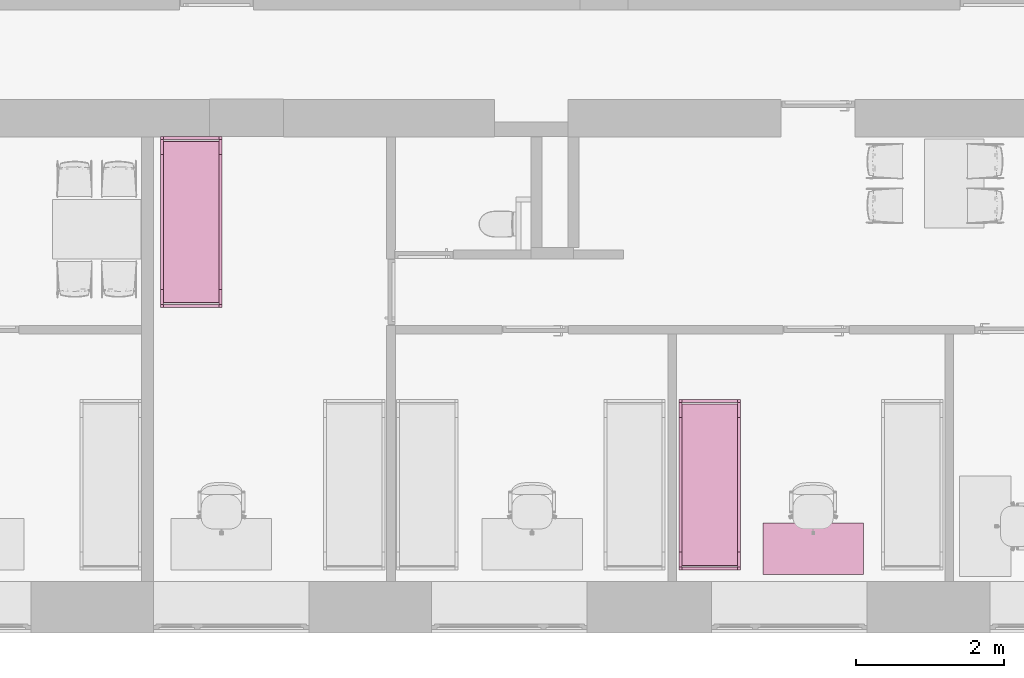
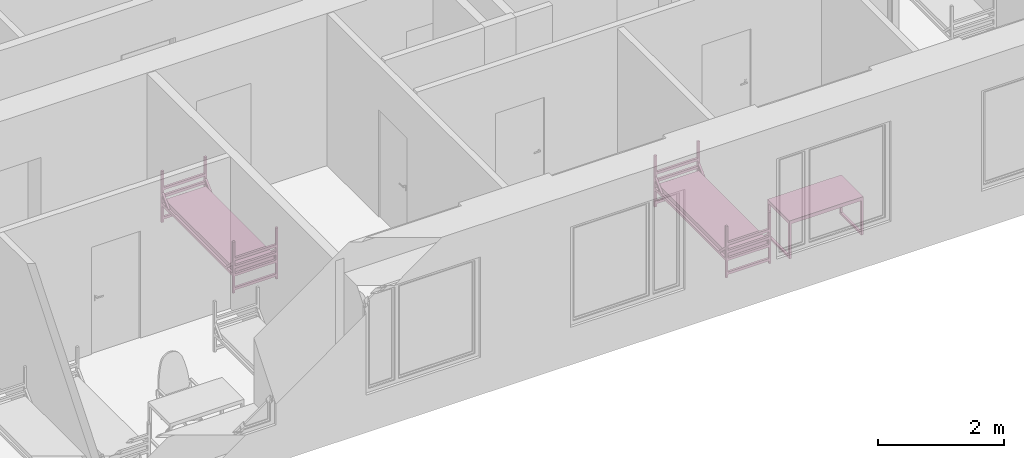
# One storey, part 33 of 48: 3 furnishings.
"""IFC2X3 building model written with IfcOpenShell, lengths in millimetres."""

from ifc_helpers import new_model, entity, si_unit, converted_unit, derived_unit, direction, frame, frame_2d, origin, place, context, subcontext, project, spatial, polyline, circle_curve, parameter, trimmed, segment, composite_curve, rectangle, outline, extrude, faceted_brep, source, transform, mapped, material, material_list, type_object, type_shapes, element, save


model = new_model("IFC2X3")

# Units and contexts
model_context = context("Model", 3, precision=0.01, world=origin(), true_north=direction((6.12303176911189e-17, 1.0)))
body_context = subcontext(model_context, "Body", "Model", "MODEL_VIEW")
ifc_project = project(units=[si_unit("LENGTHUNIT", "METRE", prefix="MILLI"), si_unit("AREAUNIT", "SQUARE_METRE"), si_unit("VOLUMEUNIT", "CUBIC_METRE"), converted_unit("PLANEANGLEUNIT", "DEGREE", entity("IfcRatioMeasure", 0.0174532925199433), si_unit("PLANEANGLEUNIT", "RADIAN"), dimensions=[0, 0, 0, 0, 0, 0, 0]), si_unit("MASSUNIT", "GRAM", prefix="KILO"), derived_unit("MASSDENSITYUNIT", [(si_unit("MASSUNIT", "GRAM", prefix="KILO"), 1), (si_unit("LENGTHUNIT", "METRE"), -3)]), si_unit("TIMEUNIT", "SECOND"), si_unit("FREQUENCYUNIT", "HERTZ"), si_unit("THERMODYNAMICTEMPERATUREUNIT", "DEGREE_CELSIUS"), derived_unit("THERMALTRANSMITTANCEUNIT", [(si_unit("MASSUNIT", "GRAM", prefix="KILO"), 1), (si_unit("THERMODYNAMICTEMPERATUREUNIT", "KELVIN"), -1), (si_unit("TIMEUNIT", "SECOND"), -3)]), derived_unit("VOLUMETRICFLOWRATEUNIT", [(si_unit("LENGTHUNIT", "METRE"), 3), (si_unit("TIMEUNIT", "SECOND"), -1)]), si_unit("ELECTRICCURRENTUNIT", "AMPERE"), si_unit("ELECTRICVOLTAGEUNIT", "VOLT"), si_unit("POWERUNIT", "WATT"), si_unit("FORCEUNIT", "NEWTON", prefix="KILO"), si_unit("ILLUMINANCEUNIT", "LUX"), si_unit("LUMINOUSFLUXUNIT", "LUMEN"), si_unit("LUMINOUSINTENSITYUNIT", "CANDELA"), derived_unit("USERDEFINED", [(si_unit("MASSUNIT", "GRAM", prefix="KILO"), -1), (si_unit("LENGTHUNIT", "METRE"), -2), (si_unit("TIMEUNIT", "SECOND"), 3), (si_unit("LUMINOUSFLUXUNIT", "LUMEN"), 1)]), derived_unit("LINEARVELOCITYUNIT", [(si_unit("LENGTHUNIT", "METRE"), 1), (si_unit("TIMEUNIT", "SECOND"), -1)]), si_unit("PRESSUREUNIT", "PASCAL"), derived_unit("USERDEFINED", [(si_unit("LENGTHUNIT", "METRE"), -2), (si_unit("MASSUNIT", "GRAM", prefix="KILO"), 1), (si_unit("TIMEUNIT", "SECOND"), -2)]), derived_unit("LINEARFORCEUNIT", [(si_unit("MASSUNIT", "GRAM", prefix="KILO"), 1), (si_unit("LENGTHUNIT", "METRE"), 1), (si_unit("TIMEUNIT", "SECOND"), -2), (si_unit("LENGTHUNIT", "METRE"), -1)]), derived_unit("PLANARFORCEUNIT", [(si_unit("MASSUNIT", "GRAM", prefix="KILO"), 1), (si_unit("LENGTHUNIT", "METRE"), 1), (si_unit("TIMEUNIT", "SECOND"), -2), (si_unit("LENGTHUNIT", "METRE"), -2)])], contexts=[model_context])

# Site, building, storey, space
site_placement = place(None, origin())
site = spatial("IfcSite", under=ifc_project, at=site_placement, Name="Default", CompositionType="ELEMENT")
building_placement = place(site_placement, origin())
building = spatial("IfcBuilding", under=site, at=building_placement, Name="SMA ARH", CompositionType="ELEMENT")
storey_placement = place(building_placement, frame((0.0, 0.0, 6600.0)))
storey = spatial("IfcBuildingStorey", under=building, at=storey_placement, Name="3 Korrus", CompositionType="ELEMENT", Elevation=6599.99999999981)
space_1_placement = place(storey_placement, origin())
space_1 = spatial("IfcSpace", under=storey, at=space_1_placement, Name="3-7", CompositionType="ELEMENT", InteriorOrExteriorSpace="INTERNAL")

# Furnishing
ifc_material_1 = material(Name="Madrats")
furniture_type_1 = type_object("IfcFurnitureType", Name="Kasarmu voodi ühekordne 2308x830:Kasarmu voodi ühekordne 2308x830", material=ifc_material_1)
shared_shape_1 = source(origin(), body_context, "Body", "SweptSolid", [
    extrude(rectangle(XDim=39.9999999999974, YDim=750.000000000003, at=frame_2d((-1.35003119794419e-13, -2.8421709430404e-14), x_axis=(1.0, 0.0))), frame((1.68638457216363, -1226.7969571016, 55.0), z_axis=(0.0, 0.0, 1.0), x_axis=(0.0, -1.0, 0.0)), (0.0, 0.0, 1.0), 49.9999999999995),
    extrude(rectangle(XDim=39.9999999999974, YDim=750.000000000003, at=frame_2d((-1.35003119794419e-13, -2.8421709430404e-14), x_axis=(1.0, 0.0))), frame((1.68638457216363, -1226.7969571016, 325.0), z_axis=(0.0, 0.0, 1.0), x_axis=(0.0, -1.0, 0.0)), (0.0, 0.0, 1.0), 49.9999999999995),
    extrude(rectangle(XDim=39.9999999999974, YDim=750.000000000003, at=frame_2d((-1.35003119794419e-13, -2.8421709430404e-14), x_axis=(1.0, 0.0))), frame((1.68638457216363, -1226.7969571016, 475.0), z_axis=(0.0, 0.0, 1.0), x_axis=(0.0, -1.0, 0.0)), (0.0, 0.0, 1.0), 49.9999999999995),
    extrude(rectangle(XDim=39.9999999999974, YDim=750.000000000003, at=frame_2d((-1.35003119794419e-13, -2.8421709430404e-14), x_axis=(1.0, 0.0))), frame((1.68638457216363, -1226.7969571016, 625.0), z_axis=(0.0, 0.0, 1.0), x_axis=(0.0, -1.0, 0.0)), (0.0, 0.0, 1.0), 50.0000000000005),
    extrude(rectangle(XDim=39.9999999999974, YDim=750.000000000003, at=frame_2d((1.35003119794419e-13, -2.8421709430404e-14), x_axis=(1.0, 0.0))), frame((1.68638457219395, 1041.2030428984, 55.0), z_axis=(0.0, 0.0, 1.0), x_axis=(0.0, -1.0, 0.0)), (0.0, 0.0, 1.0), 50.0000000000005),
    extrude(rectangle(XDim=39.9999999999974, YDim=750.000000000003, at=frame_2d((1.35003119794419e-13, -2.8421709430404e-14), x_axis=(1.0, 0.0))), frame((1.68638457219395, 1041.2030428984, 325.0), z_axis=(0.0, 0.0, 1.0), x_axis=(0.0, -1.0, 0.0)), (0.0, 0.0, 1.0), 50.0000000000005),
    extrude(rectangle(XDim=39.9999999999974, YDim=750.000000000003, at=frame_2d((1.35003119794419e-13, -2.8421709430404e-14), x_axis=(1.0, 0.0))), frame((1.68638457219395, 1041.2030428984, 475.0), z_axis=(0.0, 0.0, 1.0), x_axis=(0.0, -1.0, 0.0)), (0.0, 0.0, 1.0), 50.0000000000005),
    extrude(rectangle(XDim=39.9999999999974, YDim=750.000000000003, at=frame_2d((1.35003119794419e-13, -2.8421709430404e-14), x_axis=(1.0, 0.0))), frame((1.68638457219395, 1041.2030428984, 625.0), z_axis=(0.0, 0.0, 1.0), x_axis=(0.0, -1.0, 0.0)), (0.0, 0.0, 1.0), 49.9999999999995),
    extrude(outline(composite_curve([segment(trimmed(circle_curve(frame_2d((1085.0, -40.0), x_axis=(1.0, 0.0)), 10.0), [parameter(270.0)], [parameter(0.0)], True, "PARAMETER"), True, "CONTINUOUS"), segment(polyline([(1095.0, -40.0), (1095.0, 40.0)]), True, "CONTINUOUS"), segment(trimmed(circle_curve(frame_2d((1085.0, 40.0), x_axis=(1.0, 0.0)), 10.0), [parameter(0.0)], [parameter(90.0000000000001)], True, "PARAMETER"), True, "CONTINUOUS"), segment(polyline([(1085.0, 50.0), (-1085.0, 50.0)]), True, "CONTINUOUS"), segment(trimmed(circle_curve(frame_2d((-1085.0, 40.0), x_axis=(1.0, 0.0)), 10.0), [parameter(90.0000000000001)], [parameter(180.0)], True, "PARAMETER"), True, "CONTINUOUS"), segment(polyline([(-1095.0, 40.0), (-1095.0, -40.0)]), True, "CONTINUOUS"), segment(trimmed(circle_curve(frame_2d((-1085.0, -40.0), x_axis=(1.0, 0.0)), 10.0), [parameter(180.0)], [parameter(270.0)], True, "PARAMETER"), True, "CONTINUOUS"), segment(polyline([(-1085.0, -50.0), (1085.0, -50.0)]), True, "CONTINUOUS")], self_intersect=False)), frame((-373.313615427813, -92.7969571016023, 405.0), z_axis=(1.0, 0.0, 0.0), x_axis=(0.0, -1.0, 0.0)), (0.0, 0.0, 1.0), 750.000000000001),
    extrude(outline(polyline([(-1114.0, -100.0), (1114.0, -100.0), (1114.0, -50.0), (961.59199141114, -50.0), (1114.0, 100.0), (1114.0, 150.0), (910.789321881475, -50.0), (-910.789321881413, -50.0), (-1114.0, 150.0), (-1114.0, 100.0), (-961.591991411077, -50.0), (-1114.0, -50.0), (-1114.0, -100.0)])), frame((-413.313615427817, -92.7969571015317, 430.0), z_axis=(1.0, 0.0, 0.0), x_axis=(0.0, 1.0, 0.0)), (0.0, 0.0, 1.0), 39.9999999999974),
    extrude(outline(polyline([(-1114.0, -100.0), (1114.0, -100.0), (1114.0, -50.0), (961.591991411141, -50.0), (1114.0, 100.0), (1114.0, 150.0), (910.789321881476, -50.0), (-910.789321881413, -50.0), (-1114.0, 150.0), (-1114.0, 100.0), (-961.591991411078, -50.0), (-1114.0, -50.0), (-1114.0, -100.0)])), frame((376.686384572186, -92.796957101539, 430.0), z_axis=(1.0, 0.0, 0.0), x_axis=(0.0, 1.0, 0.0)), (0.0, 0.0, 1.0), 39.9999999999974),
    extrude(rectangle(XDim=39.9999999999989, YDim=39.9999999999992, at=frame_2d((-6.75015598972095e-14, 0.0), x_axis=(1.0, 0.0))), frame((396.686384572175, -1226.79695710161, 0.0), z_axis=(0.0, 0.0, 1.0), x_axis=(0.0, 1.0, 0.0)), (0.0, 0.0, 1.0), 995.0),
    extrude(rectangle(XDim=39.9999999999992, YDim=39.9999999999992, at=frame_2d((-1.35003119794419e-13, 0.0), x_axis=(1.0, 0.0))), frame((396.686384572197, 1041.20304289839, 0.0), z_axis=(0.0, 0.0, 1.0), x_axis=(0.0, 1.0, 0.0)), (0.0, 0.0, 1.0), 995.0),
    extrude(rectangle(XDim=40.0000000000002, YDim=39.9999999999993, at=frame_2d((-1.35003119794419e-13, 0.0), x_axis=(1.0, 0.0))), frame((-393.313615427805, 1041.2030428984, 0.0), z_axis=(0.0, 0.0, 1.0), x_axis=(0.0, 1.0, 0.0)), (0.0, 0.0, 1.0), 995.0),
    extrude(rectangle(XDim=39.9999999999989, YDim=39.9999999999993, at=frame_2d((-6.75015598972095e-14, 0.0), x_axis=(1.0, 0.0))), frame((-393.313615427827, -1226.7969571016, 0.0), z_axis=(0.0, 0.0, 1.0), x_axis=(0.0, 1.0, 0.0)), (0.0, 0.0, 1.0), 995.0),
])
type_shapes(furniture_type_1, [shared_shape_1])
furnishing_1_placement = place(space_1_placement, frame((23839.3136154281, 1396.79695710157, 0.0)))
element("IfcFurnishingElement", 1, at=furnishing_1_placement, inside=space_1, type_object=furniture_type_1, material=ifc_material_1, Name="Kasarmu voodi ühekordne 2308x830:Kasarmu voodi ühekordne 2308x830", ObjectType="Kasarmu voodi ühekordne 2308x830:Kasarmu voodi ühekordne 2308x830", context=body_context, shape_type="MappedRepresentation", body=[
    mapped(shared_shape_1, transform((0.0, 0.0, 0.0), scale=1.0)),
])

# Space
space_2_placement = place(storey_placement, origin())
space_2 = spatial("IfcSpace", under=storey, at=space_2_placement, Name="3-9", CompositionType="ELEMENT", InteriorOrExteriorSpace="INTERNAL")

# Furnishings
furnishing_2_placement = place(space_2_placement, frame((16831.1863845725, 4763.20304289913, 0.0), z_axis=(0.0, 0.0, 1.0), x_axis=(-1.0, 0.0, 0.0)))
element("IfcFurnishingElement", 2, at=furnishing_2_placement, inside=space_2, type_object=furniture_type_1, material=ifc_material_1, Name="Kasarmu voodi ühekordne 2308x830:Kasarmu voodi ühekordne 2308x830", ObjectType="Kasarmu voodi ühekordne 2308x830:Kasarmu voodi ühekordne 2308x830", context=body_context, shape_type="MappedRepresentation", body=[
    mapped(shared_shape_1, transform((0.0, 0.0, 0.0), scale=1.0)),
])
ifc_material_2 = material(Name="<Unnamed>")
ifc_material_list = material_list([ifc_material_2, ifc_material_2])
furniture_type_2 = type_object("IfcFurnitureType", Name="kirjutuslaud 1360x700mm:kirjutuslaud 1360x700mm", material=ifc_material_list)
shared_shape_2 = source(origin(), body_context, "Body", "Brep", [
    faceted_brep([(680.0, -350.0, 720.0), (680.0, 350.0, 720.0), (680.0, 350.0, 750.0), (680.0, -350.0, 750.0), (-680.0, -350.0, 720.0), (-680.0, -350.0, 750.0), (-680.0, 350.0, 750.0), (-680.0, 350.0, 720.0)], [[[0, 1, 2, 3]], [[4, 5, 6, 7]], [[1, 0, 4, 7]], [[2, 1, 7, 6]], [[3, 2, 6, 5]], [[0, 3, 5, 4]]]),
    faceted_brep([(-640.0, -310.0, 680.0), (-640.0, 310.0, 680.0), (-640.0, 310.0, 720.0), (-640.0, -310.0, 720.0), (-680.0, -350.0, 720.0), (-680.0, 350.0, 720.0), (-680.0, 350.0, 10.0), (-680.0, -350.0, 10.0), (-680.0, 310.0, 680.0), (-680.0, -310.0, 680.0), (-680.0, -310.0, 50.0), (-680.0, 310.0, 50.0), (-640.0, -350.0, 10.0), (-640.0, -350.0, 680.0), (640.0, -350.0, 680.0), (640.0, -350.0, 10.0), (680.0, -350.0, 10.0), (680.0, -350.0, 720.0), (-640.0, 350.0, 10.0), (680.0, 350.0, 720.0), (680.0, 350.0, 10.0), (640.0, 350.0, 10.0), (640.0, 350.0, 680.0), (-640.0, 350.0, 680.0), (640.0, 310.0, 720.0), (640.0, -310.0, 720.0), (-640.0, 310.0, 50.0), (-640.0, -310.0, 50.0), (640.0, -310.0, 680.0), (640.0, 310.0, 680.0), (680.0, 310.0, 680.0), (680.0, 310.0, 50.0), (680.0, -310.0, 50.0), (680.0, -310.0, 680.0), (640.0, -310.0, 50.0), (640.0, 310.0, 50.0)], [[[0, 1, 2, 3]], [[4, 5, 6, 7], [8, 9, 10, 11]], [[4, 7, 12, 13, 14, 15, 16, 17]], [[18, 12, 7, 6]], [[6, 5, 19, 20, 21, 22, 23, 18]], [[19, 5, 4, 17], [2, 24, 25, 3]], [[26, 1, 8, 11]], [[27, 26, 11, 10]], [[0, 27, 10, 9]], [[1, 0, 9, 8]], [[14, 13, 0, 28]], [[24, 2, 1, 29]], [[3, 25, 28, 0]], [[17, 16, 20, 19], [30, 31, 32, 33]], [[21, 15, 14, 28, 34, 35, 29, 22]], [[20, 16, 15, 21]], [[31, 30, 29, 35]], [[32, 31, 35, 34]], [[33, 32, 34, 28]], [[30, 33, 28, 29]], [[29, 28, 25, 24]], [[29, 1, 23, 22]], [[12, 18, 23, 1, 26, 27, 0, 13]]]),
    faceted_brep([(-663.729456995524, -270.466136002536, 0.0), (-659.847171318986, -269.955023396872, 0.0), (-655.964885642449, -270.466136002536, 0.0), (-652.347171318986, -271.964642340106, 0.0), (-649.240569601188, -274.348421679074, 0.0), (-646.85679026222, -277.455023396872, 0.0), (-645.35828392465, -281.072737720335, 0.0), (-644.847171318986, -284.955023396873, 0.0), (-645.35828392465, -288.83730907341, 0.0), (-646.85679026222, -292.455023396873, 0.0), (-649.240569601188, -295.561625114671, 0.0), (-652.347171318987, -297.945404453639, 0.0), (-655.964885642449, -299.443910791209, 0.0), (-659.847171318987, -299.955023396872, 0.0), (-663.729456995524, -299.443910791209, 0.0), (-667.347171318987, -297.945404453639, 0.0), (-670.453773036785, -295.561625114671, 0.0), (-672.837552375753, -292.455023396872, 0.0), (-674.336058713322, -288.83730907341, 0.0), (-674.847171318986, -284.955023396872, 0.0), (-674.336058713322, -281.072737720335, 0.0), (-672.837552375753, -277.455023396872, 0.0), (-670.453773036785, -274.348421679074, 0.0), (-667.347171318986, -271.964642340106, 0.0), (-655.964885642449, -299.443910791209, 10.0), (-652.347171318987, -297.945404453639, 10.0), (-649.240569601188, -295.561625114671, 10.0), (-646.85679026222, -292.455023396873, 10.0), (-645.35828392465, -288.83730907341, 10.0), (-644.847171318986, -284.955023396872, 10.0), (-645.35828392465, -281.072737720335, 10.0), (-646.85679026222, -277.455023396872, 10.0), (-649.240569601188, -274.348421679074, 10.0), (-652.347171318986, -271.964642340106, 10.0), (-655.964885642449, -270.466136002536, 10.0), (-659.847171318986, -269.955023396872, 10.0), (-663.729456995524, -270.466136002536, 10.0), (-667.347171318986, -271.964642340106, 10.0), (-670.453773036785, -274.348421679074, 10.0), (-672.837552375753, -277.455023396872, 10.0), (-674.336058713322, -281.072737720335, 10.0), (-674.847171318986, -284.955023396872, 10.0), (-674.336058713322, -288.83730907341, 10.0), (-672.837552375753, -292.455023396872, 10.0), (-670.453773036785, -295.561625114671, 10.0), (-667.347171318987, -297.945404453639, 10.0), (-663.729456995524, -299.443910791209, 10.0), (-659.847171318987, -299.955023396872, 10.0)], [[[0, 1, 2, 3, 4, 5, 6, 7, 8, 9, 10, 11, 12, 13, 14, 15, 16, 17, 18, 19, 20, 21, 22, 23]], [[24, 25, 26, 27, 28, 29, 30, 31, 32, 33, 34, 35, 36, 37, 38, 39, 40, 41, 42, 43, 44, 45, 46, 47]], [[18, 42, 41, 19]], [[17, 43, 42, 18]], [[45, 44, 16, 15]], [[17, 16, 44, 43]], [[46, 45, 15, 14]], [[47, 46, 14, 13]], [[12, 24, 47, 13]], [[11, 25, 24, 12]], [[27, 26, 10, 9]], [[11, 10, 26, 25]], [[28, 27, 9, 8]], [[29, 28, 8, 7]], [[6, 30, 29, 7]], [[5, 31, 30, 6]], [[33, 32, 4, 3]], [[5, 4, 32, 31]], [[34, 33, 3, 2]], [[35, 34, 2, 1]], [[0, 36, 35, 1]], [[23, 37, 36, 0]], [[39, 38, 22, 21]], [[23, 22, 38, 37]], [[40, 39, 21, 20]], [[41, 40, 20, 19]]]),
    faceted_brep([(-655.964885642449, 270.466136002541, 10.0), (-652.347171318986, 271.964642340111, 10.0), (-649.240569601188, 274.348421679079, 10.0), (-646.85679026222, 277.455023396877, 10.0), (-645.35828392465, 281.07273772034, 10.0), (-644.847171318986, 284.955023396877, 10.0), (-645.35828392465, 288.837309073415, 10.0), (-646.85679026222, 292.455023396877, 10.0), (-649.240569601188, 295.561625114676, 10.0), (-652.347171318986, 297.945404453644, 10.0), (-655.964885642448, 299.443910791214, 10.0), (-659.847171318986, 299.955023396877, 10.0), (-663.729456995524, 299.443910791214, 10.0), (-667.347171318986, 297.945404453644, 10.0), (-670.453773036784, 295.561625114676, 10.0), (-672.837552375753, 292.455023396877, 10.0), (-674.336058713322, 288.837309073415, 10.0), (-674.847171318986, 284.955023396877, 10.0), (-674.336058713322, 281.07273772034, 10.0), (-672.837552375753, 277.455023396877, 10.0), (-670.453773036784, 274.348421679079, 10.0), (-667.347171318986, 271.964642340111, 10.0), (-663.729456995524, 270.466136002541, 10.0), (-659.847171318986, 269.955023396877, 10.0), (-655.964885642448, 299.443910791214, 0.0), (-652.347171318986, 297.945404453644, 0.0), (-649.240569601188, 295.561625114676, 0.0), (-646.85679026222, 292.455023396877, 0.0), (-645.35828392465, 288.837309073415, 0.0), (-644.847171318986, 284.955023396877, 0.0), (-645.35828392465, 281.07273772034, 0.0), (-646.85679026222, 277.455023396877, 0.0), (-649.240569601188, 274.348421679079, 0.0), (-652.347171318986, 271.964642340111, 0.0), (-655.964885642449, 270.466136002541, 0.0), (-659.847171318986, 269.955023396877, 0.0), (-663.729456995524, 270.466136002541, 0.0), (-667.347171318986, 271.964642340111, 0.0), (-670.453773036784, 274.348421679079, 0.0), (-672.837552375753, 277.455023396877, 0.0), (-674.336058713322, 281.07273772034, 0.0), (-674.847171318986, 284.955023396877, 0.0), (-674.336058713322, 288.837309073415, 0.0), (-672.837552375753, 292.455023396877, 0.0), (-670.453773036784, 295.561625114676, 0.0), (-667.347171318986, 297.945404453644, 0.0), (-663.729456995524, 299.443910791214, 0.0), (-659.847171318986, 299.955023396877, 0.0)], [[[0, 1, 2, 3, 4, 5, 6, 7, 8, 9, 10, 11, 12, 13, 14, 15, 16, 17, 18, 19, 20, 21, 22, 23]], [[24, 25, 26, 27, 28, 29, 30, 31, 32, 33, 34, 35, 36, 37, 38, 39, 40, 41, 42, 43, 44, 45, 46, 47]], [[40, 18, 17, 41]], [[39, 19, 18, 40]], [[21, 20, 38, 37]], [[39, 38, 20, 19]], [[22, 21, 37, 36]], [[23, 22, 36, 35]], [[34, 0, 23, 35]], [[33, 1, 0, 34]], [[3, 2, 32, 31]], [[33, 32, 2, 1]], [[4, 3, 31, 30]], [[5, 4, 30, 29]], [[28, 6, 5, 29]], [[27, 7, 6, 28]], [[9, 8, 26, 25]], [[27, 26, 8, 7]], [[10, 9, 25, 24]], [[11, 10, 24, 47]], [[46, 12, 11, 47]], [[45, 13, 12, 46]], [[15, 14, 44, 43]], [[45, 44, 14, 13]], [[16, 15, 43, 42]], [[17, 16, 42, 41]]]),
    faceted_brep([(656.270543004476, -270.466136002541, 0.0), (660.152828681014, -269.955023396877, 0.0), (664.035114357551, -270.466136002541, 0.0), (667.652828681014, -271.96464234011, 0.0), (670.759430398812, -274.348421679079, 0.0), (673.14320973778, -277.455023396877, 0.0), (674.64171607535, -281.072737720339, 0.0), (675.152828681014, -284.955023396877, 0.0), (674.64171607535, -288.837309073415, 0.0), (673.14320973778, -292.455023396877, 0.0), (670.759430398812, -295.561625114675, 0.0), (667.652828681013, -297.945404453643, 0.0), (664.035114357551, -299.443910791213, 0.0), (660.152828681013, -299.955023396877, 0.0), (656.270543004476, -299.443910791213, 0.0), (652.652828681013, -297.945404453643, 0.0), (649.546226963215, -295.561625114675, 0.0), (647.162447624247, -292.455023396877, 0.0), (645.663941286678, -288.837309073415, 0.0), (645.152828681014, -284.955023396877, 0.0), (645.663941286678, -281.072737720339, 0.0), (647.162447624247, -277.455023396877, 0.0), (649.546226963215, -274.348421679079, 0.0), (652.652828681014, -271.96464234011, 0.0), (664.035114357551, -299.443910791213, 10.0), (667.652828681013, -297.945404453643, 10.0), (670.759430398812, -295.561625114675, 10.0), (673.14320973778, -292.455023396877, 10.0), (674.64171607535, -288.837309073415, 10.0), (675.152828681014, -284.955023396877, 10.0), (674.64171607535, -281.072737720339, 10.0), (673.14320973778, -277.455023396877, 10.0), (670.759430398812, -274.348421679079, 10.0), (667.652828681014, -271.96464234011, 10.0), (664.035114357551, -270.466136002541, 10.0), (660.152828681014, -269.955023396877, 10.0), (656.270543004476, -270.466136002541, 10.0), (652.652828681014, -271.96464234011, 10.0), (649.546226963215, -274.348421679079, 10.0), (647.162447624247, -277.455023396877, 10.0), (645.663941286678, -281.072737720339, 10.0), (645.152828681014, -284.955023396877, 10.0), (645.663941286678, -288.837309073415, 10.0), (647.162447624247, -292.455023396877, 10.0), (649.546226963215, -295.561625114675, 10.0), (652.652828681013, -297.945404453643, 10.0), (656.270543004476, -299.443910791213, 10.0), (660.152828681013, -299.955023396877, 10.0)], [[[0, 1, 2, 3, 4, 5, 6, 7, 8, 9, 10, 11, 12, 13, 14, 15, 16, 17, 18, 19, 20, 21, 22, 23]], [[24, 25, 26, 27, 28, 29, 30, 31, 32, 33, 34, 35, 36, 37, 38, 39, 40, 41, 42, 43, 44, 45, 46, 47]], [[18, 42, 41, 19]], [[17, 43, 42, 18]], [[45, 44, 16, 15]], [[17, 16, 44, 43]], [[46, 45, 15, 14]], [[47, 46, 14, 13]], [[12, 24, 47, 13]], [[11, 25, 24, 12]], [[27, 26, 10, 9]], [[11, 10, 26, 25]], [[28, 27, 9, 8]], [[29, 28, 8, 7]], [[6, 30, 29, 7]], [[5, 31, 30, 6]], [[33, 32, 4, 3]], [[5, 4, 32, 31]], [[34, 33, 3, 2]], [[35, 34, 2, 1]], [[0, 36, 35, 1]], [[23, 37, 36, 0]], [[39, 38, 22, 21]], [[23, 22, 38, 37]], [[40, 39, 21, 20]], [[41, 40, 20, 19]]]),
    faceted_brep([(664.035114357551, 270.466136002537, 10.0), (667.652828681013, 271.964642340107, 10.0), (670.759430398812, 274.348421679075, 10.0), (673.14320973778, 277.455023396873, 10.0), (674.64171607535, 281.072737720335, 10.0), (675.152828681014, 284.955023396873, 10.0), (674.64171607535, 288.837309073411, 10.0), (673.14320973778, 292.455023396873, 10.0), (670.759430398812, 295.561625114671, 10.0), (667.652828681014, 297.94540445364, 10.0), (664.035114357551, 299.443910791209, 10.0), (660.152828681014, 299.955023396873, 10.0), (656.270543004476, 299.443910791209, 10.0), (652.652828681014, 297.94540445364, 10.0), (649.546226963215, 295.561625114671, 10.0), (647.162447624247, 292.455023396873, 10.0), (645.663941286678, 288.837309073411, 10.0), (645.152828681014, 284.955023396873, 10.0), (645.663941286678, 281.072737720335, 10.0), (647.162447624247, 277.455023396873, 10.0), (649.546226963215, 274.348421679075, 10.0), (652.652828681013, 271.964642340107, 10.0), (656.270543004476, 270.466136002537, 10.0), (660.152828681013, 269.955023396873, 10.0), (664.035114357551, 299.443910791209, 0.0), (667.652828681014, 297.94540445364, 0.0), (670.759430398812, 295.561625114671, 0.0), (673.14320973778, 292.455023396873, 0.0), (674.64171607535, 288.837309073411, 0.0), (675.152828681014, 284.955023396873, 0.0), (674.64171607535, 281.072737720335, 0.0), (673.14320973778, 277.455023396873, 0.0), (670.759430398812, 274.348421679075, 0.0), (667.652828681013, 271.964642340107, 0.0), (664.035114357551, 270.466136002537, 0.0), (660.152828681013, 269.955023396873, 0.0), (656.270543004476, 270.466136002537, 0.0), (652.652828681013, 271.964642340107, 0.0), (649.546226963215, 274.348421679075, 0.0), (647.162447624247, 277.455023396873, 0.0), (645.663941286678, 281.072737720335, 0.0), (645.152828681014, 284.955023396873, 0.0), (645.663941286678, 288.837309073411, 0.0), (647.162447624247, 292.455023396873, 0.0), (649.546226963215, 295.561625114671, 0.0), (652.652828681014, 297.94540445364, 0.0), (656.270543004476, 299.443910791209, 0.0), (660.152828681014, 299.955023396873, 0.0)], [[[0, 1, 2, 3, 4, 5, 6, 7, 8, 9, 10, 11, 12, 13, 14, 15, 16, 17, 18, 19, 20, 21, 22, 23]], [[24, 25, 26, 27, 28, 29, 30, 31, 32, 33, 34, 35, 36, 37, 38, 39, 40, 41, 42, 43, 44, 45, 46, 47]], [[40, 18, 17, 41]], [[39, 19, 18, 40]], [[21, 20, 38, 37]], [[39, 38, 20, 19]], [[22, 21, 37, 36]], [[23, 22, 36, 35]], [[34, 0, 23, 35]], [[33, 1, 0, 34]], [[3, 2, 32, 31]], [[33, 32, 2, 1]], [[4, 3, 31, 30]], [[5, 4, 30, 29]], [[28, 6, 5, 29]], [[27, 7, 6, 28]], [[9, 8, 26, 25]], [[27, 26, 8, 7]], [[10, 9, 25, 24]], [[11, 10, 24, 47]], [[46, 12, 11, 47]], [[45, 13, 12, 46]], [[15, 14, 44, 43]], [[45, 44, 14, 13]], [[16, 15, 43, 42]], [[17, 16, 42, 41]]]),
])
type_shapes(furniture_type_2, [shared_shape_2])
furnishing_3_placement = place(space_1_placement, frame((25237.0, 440.0, 0.0)))
element("IfcFurnishingElement", 3, at=furnishing_3_placement, inside=space_1, type_object=furniture_type_2, Name="kirjutuslaud 1360x700mm:kirjutuslaud 1360x700mm", ObjectType="kirjutuslaud 1360x700mm:kirjutuslaud 1360x700mm", context=body_context, shape_type="MappedRepresentation", body=[
    mapped(shared_shape_2, transform((0.0, 0.0, 0.0), scale=1.0)),
])

save(model, "model.ifc")
